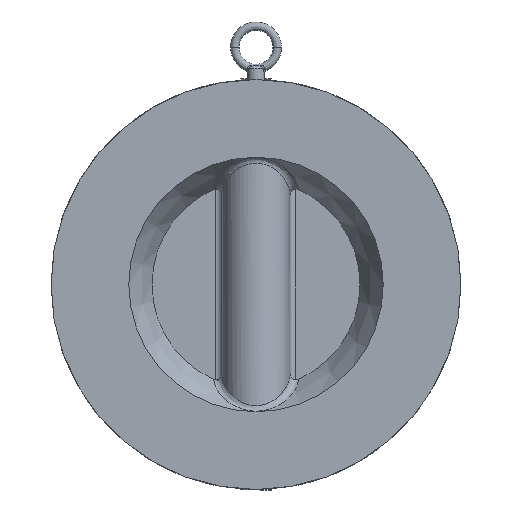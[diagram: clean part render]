
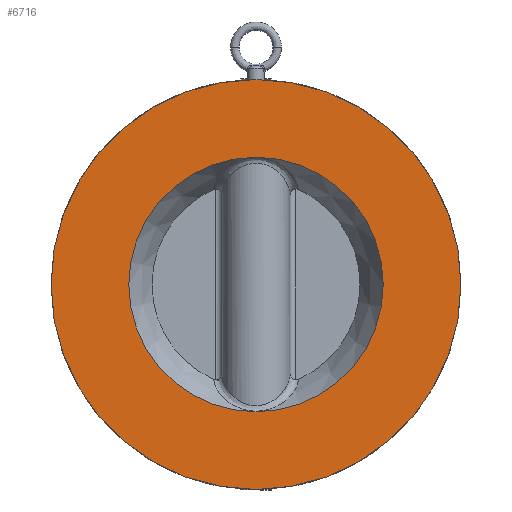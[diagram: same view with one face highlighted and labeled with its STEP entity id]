
A CAD part, front view. The second image highlights one B-rep face of the part: STEP entity #6716.
In plain terms, the highlighted planar face has unit normal (0, -1, 0).
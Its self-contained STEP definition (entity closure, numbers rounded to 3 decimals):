
#200=PLANE('',#7211);
#391=FACE_BOUND('',#1240,.T.);
#784=FACE_OUTER_BOUND('',#1239,.T.);
#1239=EDGE_LOOP('',(#4636));
#1240=EDGE_LOOP('',(#4637));
#2493=CIRCLE('',#7189,97.);
#2500=CIRCLE('',#7199,60.22);
#2855=VERTEX_POINT('',#10100);
#2885=VERTEX_POINT('',#10680);
#3471=EDGE_CURVE('',#2855,#2855,#2493,.T.);
#3506=EDGE_CURVE('',#2885,#2885,#2500,.T.);
#4636=ORIENTED_EDGE('',*,*,#3471,.T.);
#4637=ORIENTED_EDGE('',*,*,#3506,.T.);
#6716=ADVANCED_FACE('',(#784,#391),#200,.T.);
#7189=AXIS2_PLACEMENT_3D('',#10101,#7938,#7939);
#7199=AXIS2_PLACEMENT_3D('',#10682,#7968,#7969);
#7211=AXIS2_PLACEMENT_3D('',#14574,#7999,#8000);
#7938=DIRECTION('center_axis',(0.,-1.,0.));
#7939=DIRECTION('ref_axis',(0.,0.,-1.));
#7968=DIRECTION('center_axis',(0.,1.,0.));
#7969=DIRECTION('ref_axis',(0.,0.,-1.));
#7999=DIRECTION('center_axis',(0.,-1.,0.));
#8000=DIRECTION('ref_axis',(0.,0.,-1.));
#10100=CARTESIAN_POINT('',(0.,0.,97.));
#10101=CARTESIAN_POINT('Origin',(0.,0.,0.));
#10680=CARTESIAN_POINT('',(0.,0.,60.22));
#10682=CARTESIAN_POINT('Origin',(0.,0.,0.));
#14574=CARTESIAN_POINT('Origin',(0.,0.,0.));
